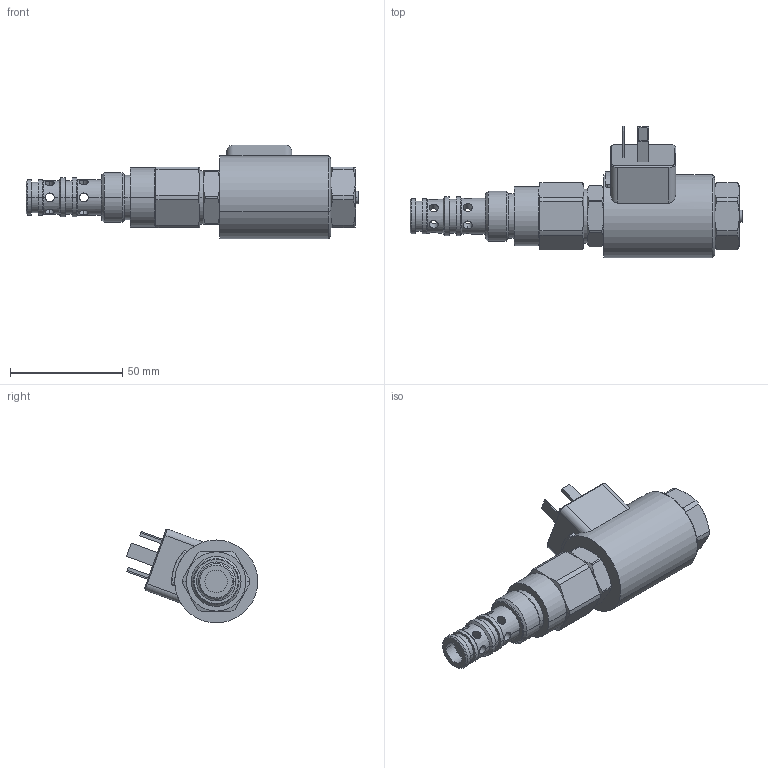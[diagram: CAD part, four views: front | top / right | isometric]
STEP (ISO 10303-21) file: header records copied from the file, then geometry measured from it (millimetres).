
FILE_DESCRIPTION((''),'2;1');
FILE_NAME('SP4P2_B3_H35_E1_ASM','2021-06-07T',('l.soukupova'),(''),'PRO/ENGINEER BY PARAMETRIC TECHNOLOGY CORPORATION, 2015440','PRO/ENGINEER BY PARAMETRIC TECHNOLOGY CORPORATION, 2015440','');
FILE_SCHEMA(('AUTOMOTIVE_DESIGN { 1 0 10303 214 1 1 1 1 }'));
Length unit declared in the file: millimetre
Products named in the file (3): SP4P2_B3_WOUTC; C19B_E1; SP4P2_B3_H35_E1_ASM
Assembly tree (2 placements, depth 2):
  SP4P2_B3_H35_E1_ASM
    SP4P2_B3_WOUTC
    C19B_E1
Bounding box: 148.1 x 58.57 x 41.87 mm (x, y, z)
Volume: 102941.3 mm3; surface area: 26141.5 mm2
Topology: 2 solids, 4 shells, 230 faces, 583 edges, 385 vertices
Faces by surface type: cylinder 97, plane 81, cone 50, torus 2
Entity records: 12869 total; most frequent: CARTESIAN_POINT 3669, DIRECTION 1155, ORIENTED_EDGE 1114, PRESENTATION_STYLE_ASSIGNMENT 751, STYLED_ITEM 630, CURVE_STYLE 588, EDGE_CURVE 561, AXIS2_PLACEMENT_3D 443
